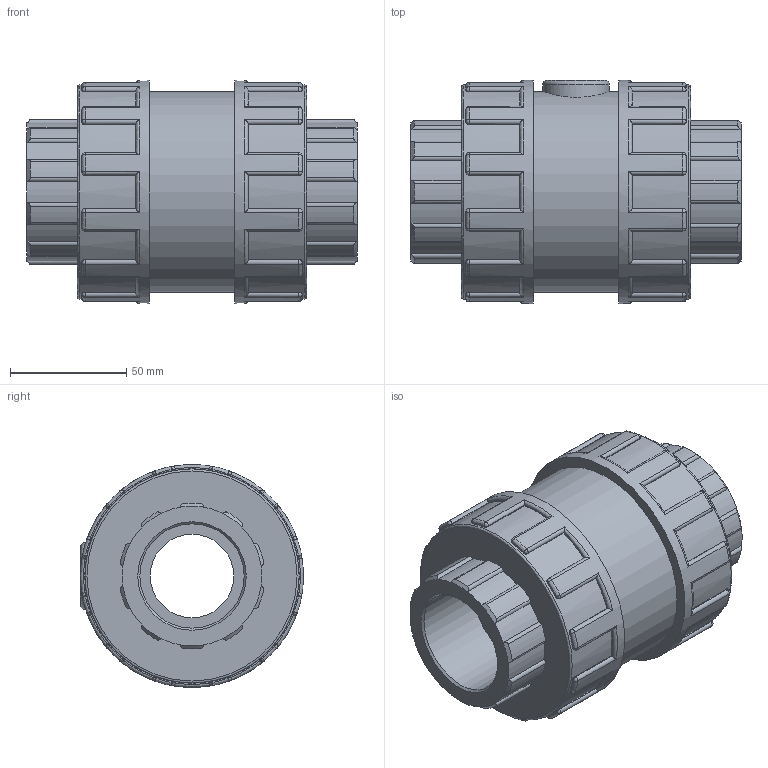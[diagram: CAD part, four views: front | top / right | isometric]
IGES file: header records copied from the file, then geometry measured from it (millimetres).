
Global section: file name: 11081015.ipt; native system: Autodesk Inventor 2015; preprocessor: unknown; author: KIM; date: 20171207.170052; units: millimetre
Bounding box: 142 x 96 x 96 mm (x, y, z)
Volume: 597682.7 mm3; surface area: 71332.6 mm2
Topology: 1 solids, 1 shells, 411 faces, 1033 edges, 630 vertices
Faces by surface type: cylinder 182, plane 105, revolution 56, sphere 48, cone 20
Full cylindrical faces by diameter (mm): 28.8 x1, 86.4 x1, 92.16 x2, 96 x2
